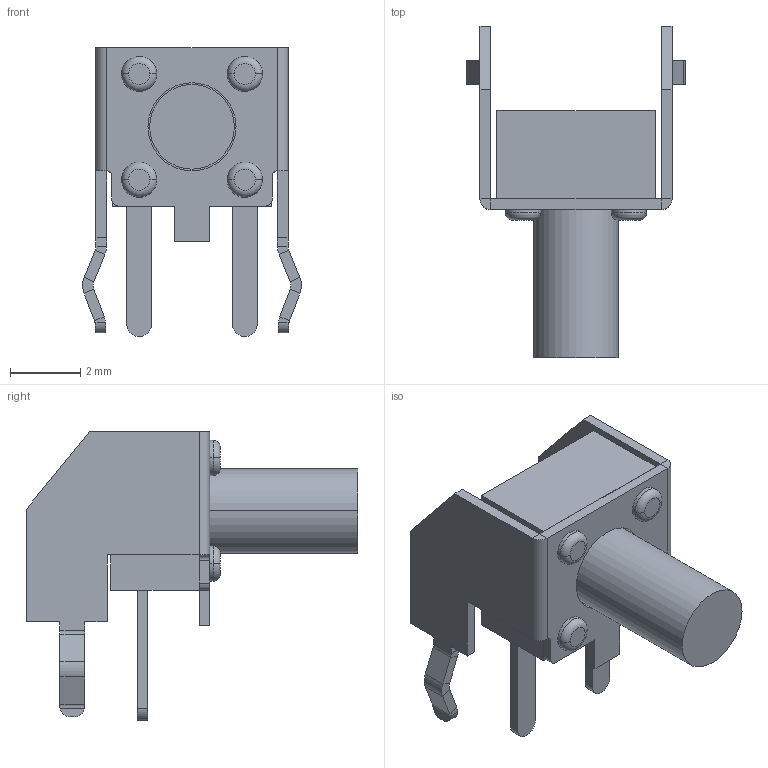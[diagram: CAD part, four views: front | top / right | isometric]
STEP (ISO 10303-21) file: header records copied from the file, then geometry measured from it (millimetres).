
FILE_DESCRIPTION((''),'2;1');
FILE_NAME('JQC4545-C0701-01G-109_ASM','2026-04-21T17:04:44',('Admin'),(''),'CREO PARAMETRIC BY PTC INC, 2019224','CREO PARAMETRIC BY PTC INC, 2019224','');
FILE_SCHEMA(('AUTOMOTIVE_DESIGN { 1 0 10303 214 1 1 1 1 }'));
Length unit declared in the file: millimetre
Products named in the file (3): JQC4545-C0701-01G-109_01; JQC4545-C0701-01G-109_02; JQC4545-C0701-01G-109_ASM
Assembly tree (2 placements, depth 2):
  JQC4545-C0701-01G-109_ASM
    JQC4545-C0701-01G-109_01
    JQC4545-C0701-01G-109_02
Bounding box: 6.21 x 9.4 x 8.2 mm (x, y, z)
Volume: 92 mm3; surface area: 287.3 mm2
Topology: 2 solids, 2 shells, 153 faces, 356 edges, 224 vertices
Faces by surface type: plane 93, cylinder 52, torus 8
Entity records: 4867 total; most frequent: DIRECTION 796, CARTESIAN_POINT 761, ORIENTED_EDGE 700, EDGE_CURVE 350, AXIS2_PLACEMENT_3D 284, VECTOR 228, LINE 228, VERTEX_POINT 212
